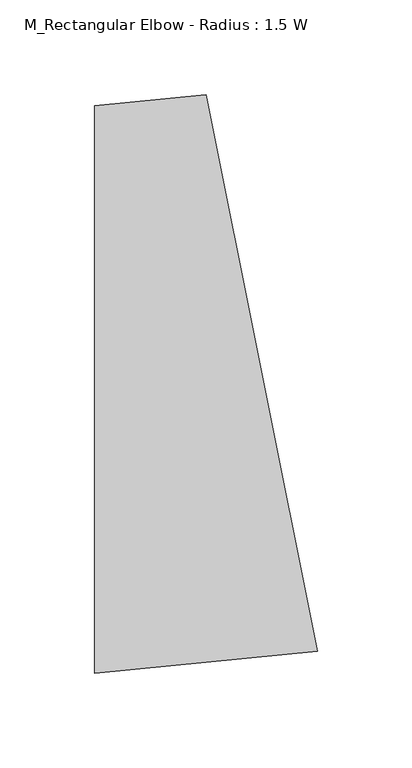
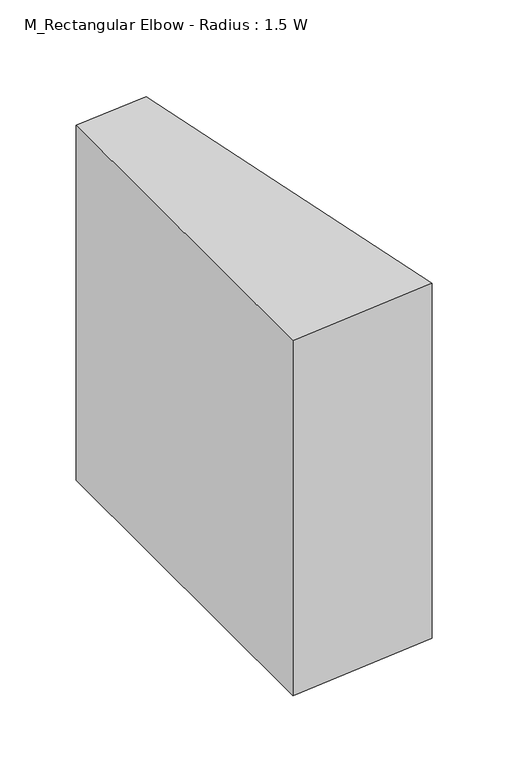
"""IFC4 building model written with IfcOpenShell, lengths in millimetres: duct fitting geometry, M_Rectangular Elbow - Radius : 1.5 W."""

from ifc_helpers import new_model, si_unit, point, frame, frame_2d, origin, place, context, project, spatial, polyline, circle_curve, trimmed, segment, composite_curve, outline, extrude, source, transform, mapped, element, save


def m_rectangular_elbow_radius_1_5_w_c61c983d(model_context):
    return source(origin(), model_context, "Body", "SweptSolid", [
        extrude(outline(composite_curve([segment(trimmed(circle_curve(frame_2d((-44.6461616, 450.0)), 600.0), [point((73.2497776, -138.3031085))], [point((-44.6461616, -150.0))], False, "CARTESIAN"), True, "CONTINUOUS"), segment(polyline([(-44.6461616, -150.0), (-44.6461616, 150.0)]), True, "CONTINUOUS"), segment(trimmed(circle_curve(frame_2d((-44.6461616, 450.0)), 300.0), [point((-44.6461616, 150.0))], [point((14.301808, 155.8484457))], True, "CARTESIAN"), True, "CONTINUOUS"), segment(polyline([(14.301808, 155.8484457), (73.2497776, -138.3031085)]), True, "CONTINUOUS")], self_intersect=False)), frame((0.0, 0.0, -150.0), z_axis=(0.0, 0.0, 1.0), x_axis=(1.0, 0.0, 0.0)), (0.0, 0.0, 1.0), 300.0),
        extrude(outline(composite_curve([segment(trimmed(circle_curve(frame_2d((-44.6461616, 450.0)), 600.0), [point((73.2497776, -138.3031085))], [point((-44.6461616, -150.0))], False, "CARTESIAN"), True, "CONTINUOUS"), segment(polyline([(-44.6461616, -150.0), (-44.6461616, 150.0)]), True, "CONTINUOUS"), segment(trimmed(circle_curve(frame_2d((-44.6461616, 450.0)), 300.0), [point((-44.6461616, 150.0))], [point((14.301808, 155.8484457))], True, "CARTESIAN"), True, "CONTINUOUS"), segment(polyline([(14.301808, 155.8484457), (73.2497776, -138.3031085)]), True, "CONTINUOUS")], self_intersect=False)), frame((0.0, 0.0, -150.0), z_axis=(0.0, 0.0, 1.0), x_axis=(1.0, 0.0, 0.0)), (0.0, 0.0, 1.0), 300.0),
        extrude(outline(composite_curve([segment(trimmed(circle_curve(frame_2d((-44.6461616, 450.0)), 600.0), [point((73.2497776, -138.3031085))], [point((-44.6461616, -150.0))], False, "CARTESIAN"), True, "CONTINUOUS"), segment(polyline([(-44.6461616, -150.0), (-44.6461616, 150.0)]), True, "CONTINUOUS"), segment(trimmed(circle_curve(frame_2d((-44.6461616, 450.0)), 300.0), [point((-44.6461616, 150.0))], [point((14.301808, 155.8484457))], True, "CARTESIAN"), True, "CONTINUOUS"), segment(polyline([(14.301808, 155.8484457), (73.2497776, -138.3031085)]), True, "CONTINUOUS")], self_intersect=False)), frame((0.0, 0.0, -150.0), z_axis=(0.0, 0.0, 1.0), x_axis=(1.0, 0.0, 0.0)), (0.0, 0.0, 1.0), 300.0),
    ])


if __name__ == "__main__":
    model = new_model("IFC4")
    model_context = context("Model", 3, world=origin())
    ifc_project = project(units=[si_unit("LENGTHUNIT", "METRE", prefix="MILLI")], contexts=[model_context])
    site = spatial("IfcSite", under=ifc_project)
    building = spatial("IfcBuilding", under=site)
    placement = place(None, origin())
    m_rectangular_elbow_radius_1_5_w_shape = m_rectangular_elbow_radius_1_5_w_c61c983d(model_context)
    element("IfcDuctFitting", 1, ObjectType="M_Rectangular Elbow - Radius : 1.5 W", at=placement, inside=building, context=model_context, shape_type="MappedRepresentation", body=[
        mapped(m_rectangular_elbow_radius_1_5_w_shape, transform((0.0, 0.0, 0.0), x_axis=(1.0, 0.0, 0.0), y_axis=(0.0, 1.0, 0.0), z_axis=(0.0, 0.0, 1.0))),
    ])
    save(model, "model.ifc")
